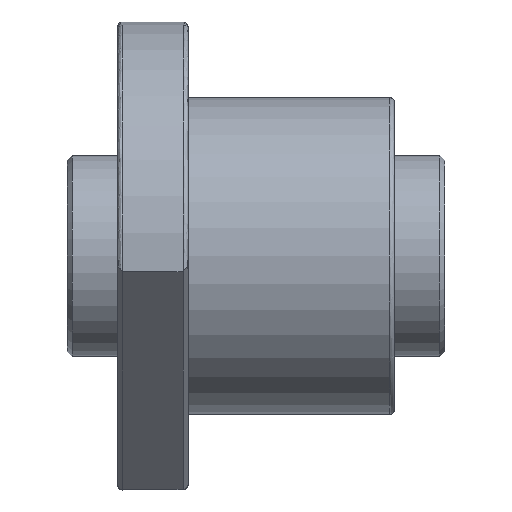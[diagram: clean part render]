
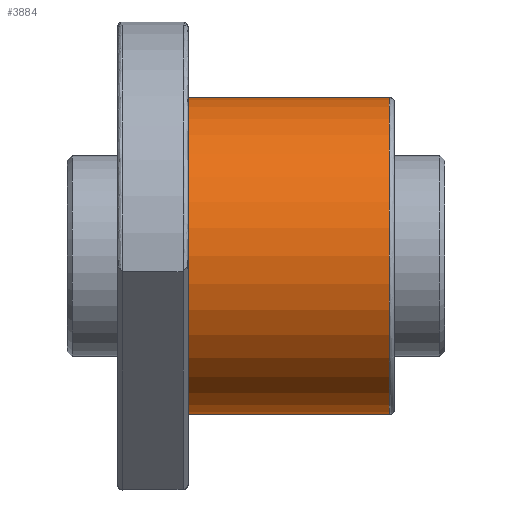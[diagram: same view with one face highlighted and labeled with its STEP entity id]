
A CAD part, front view. The second image highlights one B-rep face of the part: STEP entity #3884.
In plain terms, the highlighted cylindrical face has radius 31.5 mm (diameter 63 mm), a partial arc.
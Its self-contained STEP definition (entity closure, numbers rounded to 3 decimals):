
#76 = DIRECTION ( 'NONE',  ( -1., 0., 0. ) ) ;
#146 = LINE ( 'NONE', #4187, #3473 ) ;
#306 = DIRECTION ( 'NONE',  ( -1., 0., 0. ) ) ;
#413 = AXIS2_PLACEMENT_3D ( 'NONE', #5539, #8186, #3588 ) ;
#513 = CYLINDRICAL_SURFACE ( 'NONE', #2326, 31.5 ) ;
#637 = ORIENTED_EDGE ( 'NONE', *, *, #1133, .F. ) ;
#756 = DIRECTION ( 'NONE',  ( 0., 0., 1. ) ) ;
#760 = ORIENTED_EDGE ( 'NONE', *, *, #2575, .T. ) ;
#912 = CARTESIAN_POINT ( 'NONE',  ( 54., 0., -31.5 ) ) ;
#1133 = EDGE_CURVE ( 'NONE', #2691, #5977, #7687, .T. ) ;
#1242 = CARTESIAN_POINT ( 'NONE',  ( 14., 0., -31.5 ) ) ;
#1705 = ORIENTED_EDGE ( 'NONE', *, *, #8397, .T. ) ;
#1721 = DIRECTION ( 'NONE',  ( 0., 0., 1. ) ) ;
#1723 = CIRCLE ( 'NONE', #5121, 31.5 ) ;
#1944 = CARTESIAN_POINT ( 'NONE',  ( 14., 0., 31.5 ) ) ;
#2326 = AXIS2_PLACEMENT_3D ( 'NONE', #2809, #76, #756 ) ;
#2575 = EDGE_CURVE ( 'NONE', #8135, #5977, #4261, .T. ) ;
#2691 = VERTEX_POINT ( 'NONE', #912 ) ;
#2809 = CARTESIAN_POINT ( 'NONE',  ( 0., 0., 0. ) ) ;
#2904 = ORIENTED_EDGE ( 'NONE', *, *, #7556, .T. ) ;
#3408 = DIRECTION ( 'NONE',  ( -1., 0., 0. ) ) ;
#3473 = VECTOR ( 'NONE', #3408, 1000. ) ;
#3547 = VECTOR ( 'NONE', #5902, 1000. ) ;
#3588 = DIRECTION ( 'NONE',  ( 0., 0., 1. ) ) ;
#3884 = ADVANCED_FACE ( 'NONE', ( #5824 ), #513, .T. ) ;
#4187 = CARTESIAN_POINT ( 'NONE',  ( 0., 0., 31.5 ) ) ;
#4261 = CIRCLE ( 'NONE', #413, 31.5 ) ;
#5121 = AXIS2_PLACEMENT_3D ( 'NONE', #5693, #306, #1721 ) ;
#5539 = CARTESIAN_POINT ( 'NONE',  ( 14., 0., 0. ) ) ;
#5693 = CARTESIAN_POINT ( 'NONE',  ( 54., 0., 0. ) ) ;
#5817 = CARTESIAN_POINT ( 'NONE',  ( 0., 0., -31.5 ) ) ;
#5824 = FACE_OUTER_BOUND ( 'NONE', #7941, .T. ) ;
#5902 = DIRECTION ( 'NONE',  ( -1., 0., 0. ) ) ;
#5977 = VERTEX_POINT ( 'NONE', #1242 ) ;
#6514 = VERTEX_POINT ( 'NONE', #7238 ) ;
#7238 = CARTESIAN_POINT ( 'NONE',  ( 54., 0., 31.5 ) ) ;
#7556 = EDGE_CURVE ( 'NONE', #2691, #6514, #1723, .T. ) ;
#7687 = LINE ( 'NONE', #5817, #3547 ) ;
#7941 = EDGE_LOOP ( 'NONE', ( #637, #2904, #1705, #760 ) ) ;
#8135 = VERTEX_POINT ( 'NONE', #1944 ) ;
#8186 = DIRECTION ( 'NONE',  ( 1., 0., 0. ) ) ;
#8397 = EDGE_CURVE ( 'NONE', #6514, #8135, #146, .T. ) ;
